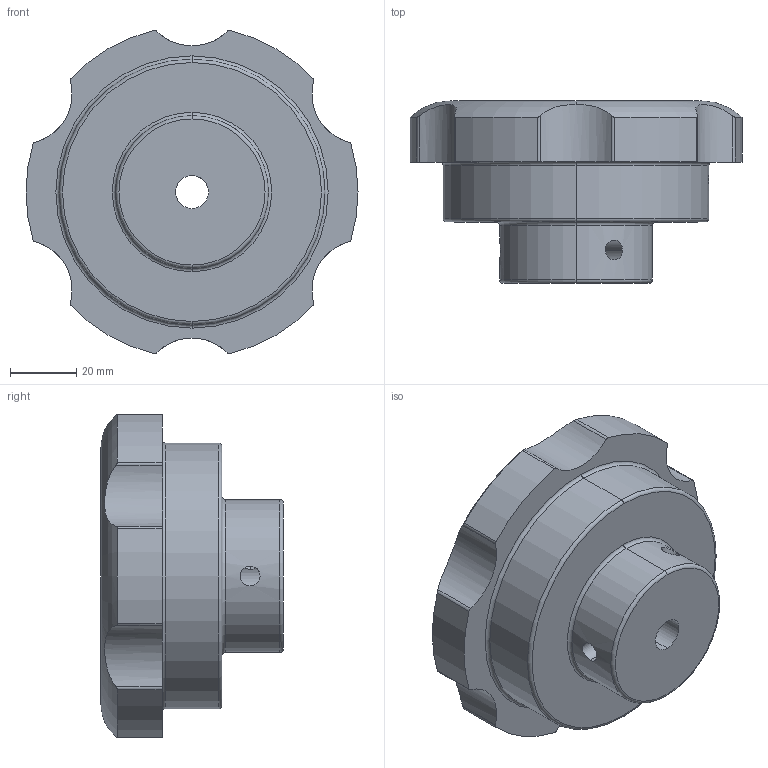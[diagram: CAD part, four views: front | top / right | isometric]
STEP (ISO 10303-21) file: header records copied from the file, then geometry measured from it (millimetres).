
FILE_DESCRIPTION (( 'STEP AP203' ), '1' );
FILE_NAME ('F03-1060-H10.STEP', '2024-12-13T09:04:30', ( '' ), ( '' ), 'SwSTEP 2.0', 'SolidWorks 2021', '' );
FILE_SCHEMA (( 'CONFIG_CONTROL_DESIGN' ));
Length unit declared in the file: millimetre
Products named in the file (1): F03-1060-H10
Bounding box: 100 x 55 x 97.36 mm (x, y, z)
Volume: 170399.9 mm3; surface area: 33500.7 mm2
Topology: 1 solids, 1 shells, 59 faces, 153 edges, 99 vertices
Faces by surface type: cylinder 43, torus 10, plane 6
Entity records: 2505 total; most frequent: CARTESIAN_POINT 968, DIRECTION 310, ORIENTED_EDGE 306, EDGE_CURVE 153, AXIS2_PLACEMENT_3D 133, VERTEX_POINT 99, CIRCLE 73, EDGE_LOOP 70
